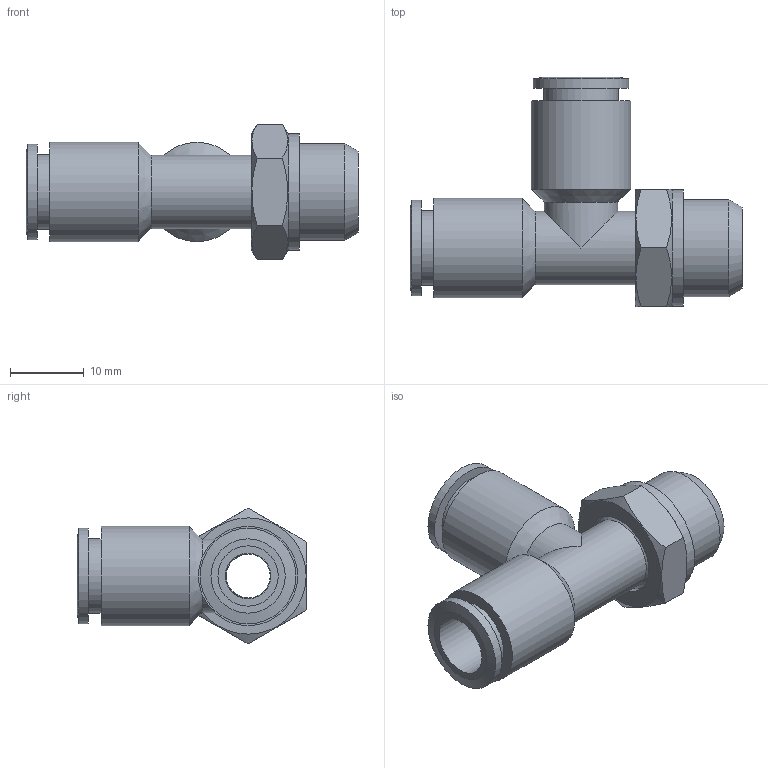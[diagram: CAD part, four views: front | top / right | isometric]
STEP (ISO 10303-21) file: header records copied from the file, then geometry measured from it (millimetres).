
FILE_DESCRIPTION((''),'2;1');
FILE_NAME('C:\Documents and Settings\rivolro1\Documenti\copia di Raccordi\PLASTICA\T21XXXX\T210814.stp','2007-11-02T08:39:36',('Rivolro1'),(''),'Autodesk Inventor 2008','Autodesk Inventor 2008','');
FILE_SCHEMA(('AUTOMOTIVE_DESIGN { 1 0 10303 214 1 1 1 1 }'));
Length unit declared in the file: millimetre
Products named in the file (1): T210814
Bounding box: 45.15 x 31.25 x 18.48 mm (x, y, z)
Volume: 5569.6 mm3; surface area: 4833.1 mm2
Topology: 1 solids, 1 shells, 51 faces, 102 edges, 65 vertices
Faces by surface type: cylinder 19, plane 19, cone 8, bspline 5
Full cylindrical faces by diameter (mm): 6 x1, 6.2 x2, 10 x2, 10.1 x2, 11 x1, 11.2 x1, 13 x2, 13.2 x1, 13.5 x2, 15.8 x1
Entity records: 1441 total; most frequent: CARTESIAN_POINT 437, DIRECTION 192, ORIENTED_EDGE 142, AXIS2_PLACEMENT_3D 91, EDGE_LOOP 90, EDGE_CURVE 71, VERTEX_POINT 59, FACE_OUTER_BOUND 51
